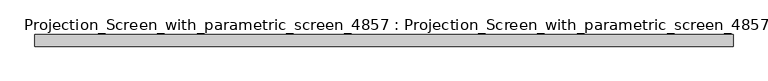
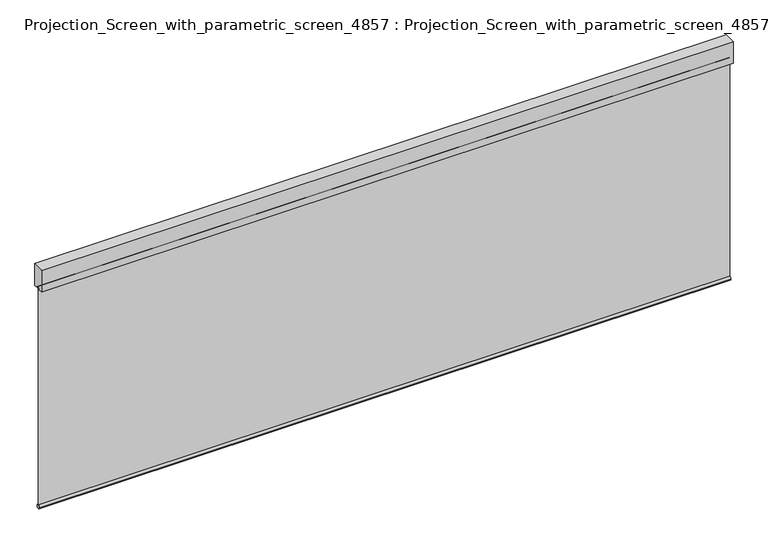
"""IFC4 building model written with IfcOpenShell, lengths in millimetres: proxy geometry, Projection_Screen_with_parametric_screen_4857 : Projection_Screen_with_parametric_screen_4857."""

from ifc_helpers import new_model, si_unit, point, frame, frame_2d, origin, place, context, project, spatial, polyline, circle_curve, trimmed, segment, composite_curve, outline, extrude, source, transform, mapped, element, save


def projection_screen_with_parametric_screen_4857_projection_ff3bfefe(model_context):
    return source(origin(), model_context, "Body", "SweptSolid", [
        extrude(outline(polyline([(2286.0, -36.5125), (2286.0, -39.6875), (-2286.0, -39.6875), (-2286.0, -36.5125), (2286.0, -36.5125)])), frame((0.0, 0.0, 774.7), z_axis=(0.0, 0.0, 1.0), x_axis=(1.0, 0.0, 0.0)), (0.0, 0.0, 1.0), 1524.0),
        extrude(outline(composite_curve([segment(trimmed(circle_curve(frame_2d((-38.1, 762.0)), 12.7), [point((-25.4, 762.0))], [point((-50.8, 762.0))], False, "CARTESIAN"), True, "CONTINUOUS"), segment(trimmed(circle_curve(frame_2d((-38.1, 762.0)), 12.7), [point((-50.8, 762.0))], [point((-25.4, 762.0))], False, "CARTESIAN"), True, "CONTINUOUS")], self_intersect=False)), frame((-2286.0, 0.0, 0.0), z_axis=(1.0, 0.0, 0.0), x_axis=(0.0, 1.0, 0.0)), (0.0, 0.0, 1.0), 4572.0),
        extrude(outline(composite_curve([segment(polyline([(-76.2, 2438.4), (0.0, 2438.4), (0.0, 2286.0), (-25.4, 2286.0)]), True, "CONTINUOUS"), segment(trimmed(circle_curve(frame_2d((-38.1, 2286.0)), 12.7), [point((-25.4, 2286.0))], [point((-50.8, 2286.0))], True, "CARTESIAN"), True, "CONTINUOUS"), segment(polyline([(-50.8, 2286.0), (-76.2, 2286.0), (-76.2, 2438.4)]), True, "CONTINUOUS")], self_intersect=False)), frame((-2286.0, 0.0, 0.0), z_axis=(1.0, 0.0, 0.0), x_axis=(0.0, 1.0, 0.0)), (0.0, 0.0, 1.0), 4572.0),
    ])


if __name__ == "__main__":
    model = new_model("IFC4")
    model_context = context("Model", 3, world=origin())
    ifc_project = project(units=[si_unit("LENGTHUNIT", "METRE", prefix="MILLI")], contexts=[model_context])
    site = spatial("IfcSite", under=ifc_project)
    building = spatial("IfcBuilding", under=site)
    placement = place(None, origin())
    projection_screen_with_parametric_screen_4857_projection_shape = projection_screen_with_parametric_screen_4857_projection_ff3bfefe(model_context)
    element("IfcBuildingElementProxy", 1, Name="Projection_Screen_with_parametric_screen_4857 : Projection_Screen_with_parametric_screen_4857", ObjectType="Projection_Screen_with_parametric_screen_4857 : Projection_Screen_with_parametric_screen_4857", at=placement, inside=building, context=model_context, shape_type="MappedRepresentation", body=[
        mapped(projection_screen_with_parametric_screen_4857_projection_shape, transform((0.0, 0.0, 0.0), x_axis=(1.0, 0.0, 0.0), y_axis=(0.0, 1.0, 0.0), z_axis=(0.0, 0.0, 1.0))),
    ])
    save(model, "model.ifc")
